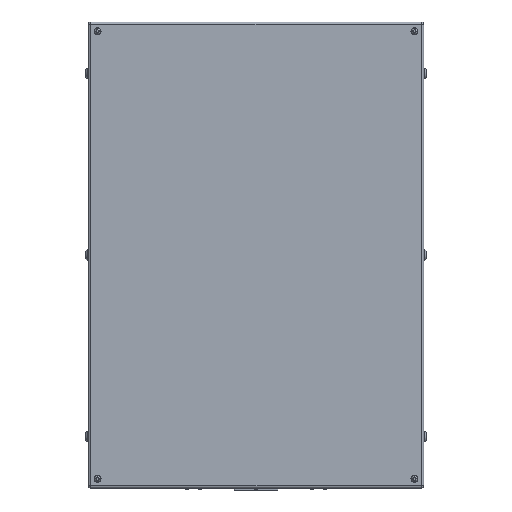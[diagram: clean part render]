
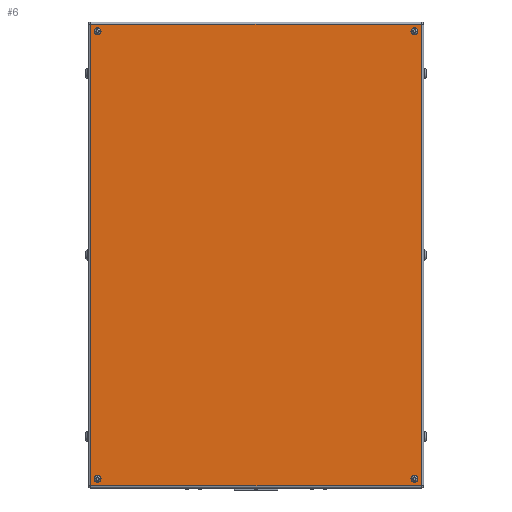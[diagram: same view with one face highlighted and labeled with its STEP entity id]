
A CAD part, front view. The second image highlights one B-rep face of the part: STEP entity #6.
In plain terms, the highlighted planar face has unit normal (0, -1, 0).
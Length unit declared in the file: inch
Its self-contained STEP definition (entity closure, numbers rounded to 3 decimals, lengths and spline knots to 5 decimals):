
#6 = ADVANCED_FACE ( 'NONE', ( #6625, #11435, #7882, #85, #1652 ), #6541, .T. ) ;
#85 = FACE_BOUND ( 'NONE', #4530, .T. ) ;
#278 = AXIS2_PLACEMENT_3D ( 'NONE', #2199, #7359, #7273 ) ;
#296 = EDGE_CURVE ( 'NONE', #5722, #6040, #8798, .T. ) ;
#514 = EDGE_CURVE ( 'NONE', #15946, #6564, #14881, .T. ) ;
#528 = AXIS2_PLACEMENT_3D ( 'NONE', #11330, #6346, #7684 ) ;
#760 = DIRECTION ( 'NONE',  ( 0., 0., -1. ) ) ;
#862 = DIRECTION ( 'NONE',  ( 0., -1., 0. ) ) ;
#1093 = LINE ( 'NONE', #10247, #4417 ) ;
#1398 = EDGE_CURVE ( 'NONE', #6215, #8880, #7676, .T. ) ;
#1533 = CARTESIAN_POINT ( 'NONE',  ( 17., -10., -24.37402 ) ) ;
#1596 = ORIENTED_EDGE ( 'NONE', *, *, #296, .F. ) ;
#1652 = FACE_OUTER_BOUND ( 'NONE', #9420, .T. ) ;
#1972 = CARTESIAN_POINT ( 'NONE',  ( -17., -10., 24. ) ) ;
#2199 = CARTESIAN_POINT ( 'NONE',  ( 17., -10., 24. ) ) ;
#2284 = VECTOR ( 'NONE', #6818, 39.37008 ) ;
#2547 = DIRECTION ( 'NONE',  ( 0., 0., 1. ) ) ;
#2636 = ORIENTED_EDGE ( 'NONE', *, *, #12560, .T. ) ;
#2762 = CARTESIAN_POINT ( 'NONE',  ( -17.734, -10., 24.734 ) ) ;
#2794 = ORIENTED_EDGE ( 'NONE', *, *, #5347, .F. ) ;
#2986 = AXIS2_PLACEMENT_3D ( 'NONE', #1972, #9642, #4542 ) ;
#3304 = VECTOR ( 'NONE', #760, 39.37008 ) ;
#3399 = CARTESIAN_POINT ( 'NONE',  ( -17., -10., 24.37402 ) ) ;
#3965 = DIRECTION ( 'NONE',  ( 0., -1., 0. ) ) ;
#3996 = VERTEX_POINT ( 'NONE', #11246 ) ;
#4417 = VECTOR ( 'NONE', #4898, 39.37008 ) ;
#4418 = AXIS2_PLACEMENT_3D ( 'NONE', #10057, #15117, #12524 ) ;
#4499 = AXIS2_PLACEMENT_3D ( 'NONE', #14205, #3965, #6455 ) ;
#4530 = EDGE_LOOP ( 'NONE', ( #16132, #2794 ) ) ;
#4542 = DIRECTION ( 'NONE',  ( 0., 0., -1. ) ) ;
#4853 = EDGE_CURVE ( 'NONE', #10947, #6119, #12109, .T. ) ;
#4868 = EDGE_LOOP ( 'NONE', ( #5088, #15678 ) ) ;
#4898 = DIRECTION ( 'NONE',  ( 1., 0., 0. ) ) ;
#4974 = CARTESIAN_POINT ( 'NONE',  ( -17.734, -10., 24.734 ) ) ;
#5088 = ORIENTED_EDGE ( 'NONE', *, *, #8452, .F. ) ;
#5230 = CARTESIAN_POINT ( 'NONE',  ( -17.734, -10., -24.734 ) ) ;
#5347 = EDGE_CURVE ( 'NONE', #8880, #6215, #15587, .T. ) ;
#5714 = DIRECTION ( 'NONE',  ( 0., -1., 0. ) ) ;
#5722 = VERTEX_POINT ( 'NONE', #1533 ) ;
#5739 = CARTESIAN_POINT ( 'NONE',  ( -17.734, -10., -24.734 ) ) ;
#6040 = VERTEX_POINT ( 'NONE', #10585 ) ;
#6119 = VERTEX_POINT ( 'NONE', #3399 ) ;
#6215 = VERTEX_POINT ( 'NONE', #12534 ) ;
#6346 = DIRECTION ( 'NONE',  ( 0., -1., 0. ) ) ;
#6455 = DIRECTION ( 'NONE',  ( 0., 0., -1. ) ) ;
#6509 = AXIS2_PLACEMENT_3D ( 'NONE', #12027, #5714, #15868 ) ;
#6541 = PLANE ( 'NONE',  #4499 ) ;
#6564 = VERTEX_POINT ( 'NONE', #12787 ) ;
#6625 = FACE_BOUND ( 'NONE', #4868, .T. ) ;
#6818 = DIRECTION ( 'NONE',  ( 0., 0., 1. ) ) ;
#6845 = LINE ( 'NONE', #2762, #14116 ) ;
#6978 = CIRCLE ( 'NONE', #14957, 0.37402 ) ;
#7273 = DIRECTION ( 'NONE',  ( 0., 0., 1. ) ) ;
#7359 = DIRECTION ( 'NONE',  ( 0., -1., 0. ) ) ;
#7676 = CIRCLE ( 'NONE', #528, 0.37402 ) ;
#7684 = DIRECTION ( 'NONE',  ( 0., 0., -1. ) ) ;
#7882 = FACE_BOUND ( 'NONE', #13955, .T. ) ;
#7897 = ORIENTED_EDGE ( 'NONE', *, *, #12465, .T. ) ;
#7944 = DIRECTION ( 'NONE',  ( 0., 0., 1. ) ) ;
#8216 = CARTESIAN_POINT ( 'NONE',  ( 17., -10., -24. ) ) ;
#8452 = EDGE_CURVE ( 'NONE', #6564, #15946, #12322, .T. ) ;
#8757 = EDGE_CURVE ( 'NONE', #15745, #14500, #13301, .T. ) ;
#8798 = CIRCLE ( 'NONE', #14341, 0.37402 ) ;
#8880 = VERTEX_POINT ( 'NONE', #15338 ) ;
#9023 = ORIENTED_EDGE ( 'NONE', *, *, #8757, .T. ) ;
#9330 = CARTESIAN_POINT ( 'NONE',  ( 17.734, -10., 24.734 ) ) ;
#9420 = EDGE_LOOP ( 'NONE', ( #2636, #11436, #9023, #7897 ) ) ;
#9423 = AXIS2_PLACEMENT_3D ( 'NONE', #11077, #862, #16061 ) ;
#9642 = DIRECTION ( 'NONE',  ( 0., -1., 0. ) ) ;
#9942 = ORIENTED_EDGE ( 'NONE', *, *, #10080, .F. ) ;
#10057 = CARTESIAN_POINT ( 'NONE',  ( -17., -10., -24. ) ) ;
#10080 = EDGE_CURVE ( 'NONE', #6119, #10947, #15734, .T. ) ;
#10247 = CARTESIAN_POINT ( 'NONE',  ( 17.734, -10., -24.734 ) ) ;
#10585 = CARTESIAN_POINT ( 'NONE',  ( 17., -10., -23.62598 ) ) ;
#10852 = EDGE_CURVE ( 'NONE', #6040, #5722, #6978, .T. ) ;
#10947 = VERTEX_POINT ( 'NONE', #12347 ) ;
#11077 = CARTESIAN_POINT ( 'NONE',  ( 17., -10., 24. ) ) ;
#11246 = CARTESIAN_POINT ( 'NONE',  ( 17.734, -10., -24.734 ) ) ;
#11330 = CARTESIAN_POINT ( 'NONE',  ( -17., -10., -24. ) ) ;
#11344 = DIRECTION ( 'NONE',  ( 0., -1., 0. ) ) ;
#11435 = FACE_BOUND ( 'NONE', #15899, .T. ) ;
#11436 = ORIENTED_EDGE ( 'NONE', *, *, #15414, .T. ) ;
#11550 = LINE ( 'NONE', #9330, #2284 ) ;
#11585 = DIRECTION ( 'NONE',  ( -1., 0., 0. ) ) ;
#12027 = CARTESIAN_POINT ( 'NONE',  ( -17., -10., 24. ) ) ;
#12109 = CIRCLE ( 'NONE', #6509, 0.37402 ) ;
#12322 = CIRCLE ( 'NONE', #9423, 0.37402 ) ;
#12347 = CARTESIAN_POINT ( 'NONE',  ( -17., -10., 23.62598 ) ) ;
#12465 = EDGE_CURVE ( 'NONE', #14500, #3996, #1093, .T. ) ;
#12524 = DIRECTION ( 'NONE',  ( 0., 0., -1. ) ) ;
#12534 = CARTESIAN_POINT ( 'NONE',  ( -17., -10., -23.62598 ) ) ;
#12560 = EDGE_CURVE ( 'NONE', #3996, #13868, #11550, .T. ) ;
#12787 = CARTESIAN_POINT ( 'NONE',  ( 17., -10., 24.37402 ) ) ;
#13290 = CARTESIAN_POINT ( 'NONE',  ( 17., -10., 23.62598 ) ) ;
#13301 = LINE ( 'NONE', #5739, #3304 ) ;
#13321 = ORIENTED_EDGE ( 'NONE', *, *, #4853, .F. ) ;
#13868 = VERTEX_POINT ( 'NONE', #16347 ) ;
#13955 = EDGE_LOOP ( 'NONE', ( #9942, #13321 ) ) ;
#14116 = VECTOR ( 'NONE', #11585, 39.37008 ) ;
#14205 = CARTESIAN_POINT ( 'NONE',  ( 0., -10., 0. ) ) ;
#14341 = AXIS2_PLACEMENT_3D ( 'NONE', #15180, #11344, #2547 ) ;
#14500 = VERTEX_POINT ( 'NONE', #5230 ) ;
#14728 = ORIENTED_EDGE ( 'NONE', *, *, #10852, .F. ) ;
#14881 = CIRCLE ( 'NONE', #278, 0.37402 ) ;
#14957 = AXIS2_PLACEMENT_3D ( 'NONE', #8216, #15767, #7944 ) ;
#15117 = DIRECTION ( 'NONE',  ( 0., -1., 0. ) ) ;
#15180 = CARTESIAN_POINT ( 'NONE',  ( 17., -10., -24. ) ) ;
#15338 = CARTESIAN_POINT ( 'NONE',  ( -17., -10., -24.37402 ) ) ;
#15414 = EDGE_CURVE ( 'NONE', #13868, #15745, #6845, .T. ) ;
#15587 = CIRCLE ( 'NONE', #4418, 0.37402 ) ;
#15678 = ORIENTED_EDGE ( 'NONE', *, *, #514, .F. ) ;
#15734 = CIRCLE ( 'NONE', #2986, 0.37402 ) ;
#15745 = VERTEX_POINT ( 'NONE', #4974 ) ;
#15767 = DIRECTION ( 'NONE',  ( 0., -1., 0. ) ) ;
#15868 = DIRECTION ( 'NONE',  ( 0., 0., -1. ) ) ;
#15899 = EDGE_LOOP ( 'NONE', ( #14728, #1596 ) ) ;
#15946 = VERTEX_POINT ( 'NONE', #13290 ) ;
#16061 = DIRECTION ( 'NONE',  ( 0., 0., 1. ) ) ;
#16132 = ORIENTED_EDGE ( 'NONE', *, *, #1398, .F. ) ;
#16347 = CARTESIAN_POINT ( 'NONE',  ( 17.734, -10., 24.734 ) ) ;
